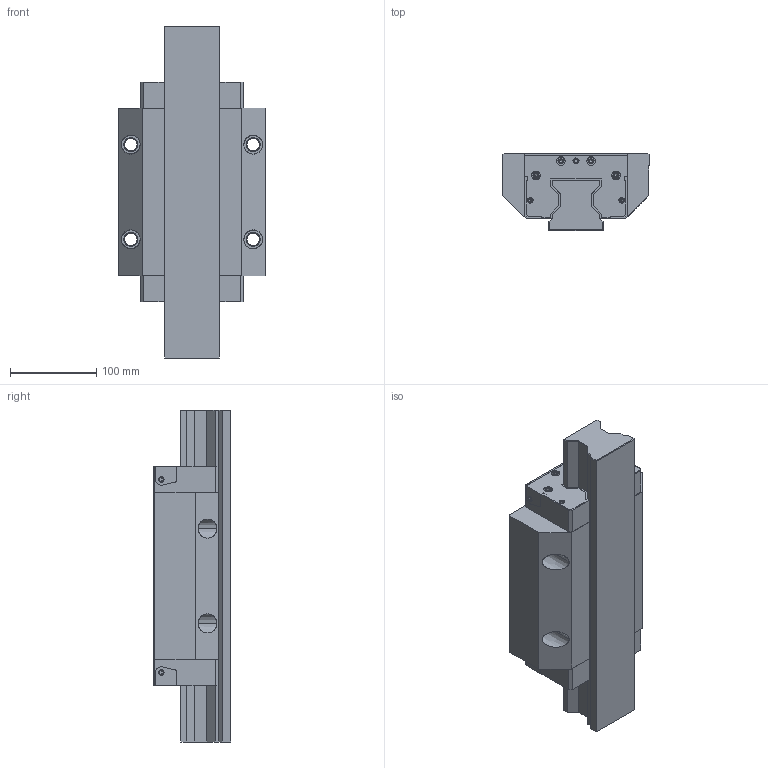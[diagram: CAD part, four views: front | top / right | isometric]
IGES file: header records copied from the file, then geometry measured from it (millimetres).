
Start section: 3D InterOp IGES (v. 2019 1.0.2), Spatial Corp. Copyright (c) 1999-2017.
Global section: file name: R1853_size65.igs; native system: Spatial Corp.; preprocessor: 3D InterOp GENERIC/IGES 3.0; author: Noname; organization: Noname; date: 20220630.112925; units: millimetre
Bounding box: 170 x 90 x 385.3 mm (x, y, z)
Surface area: 361249.7 mm2 (no closed solid volume)
Topology: 0 solids, 0 shells, 596 faces, 3132 edges, 3096 vertices
Faces by surface type: extrusion 344, revolution 252
